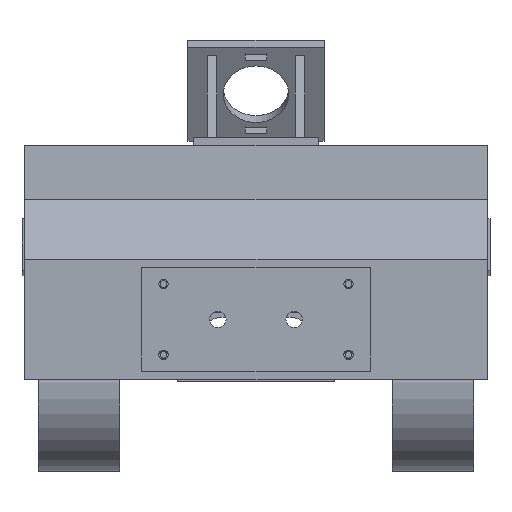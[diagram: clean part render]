
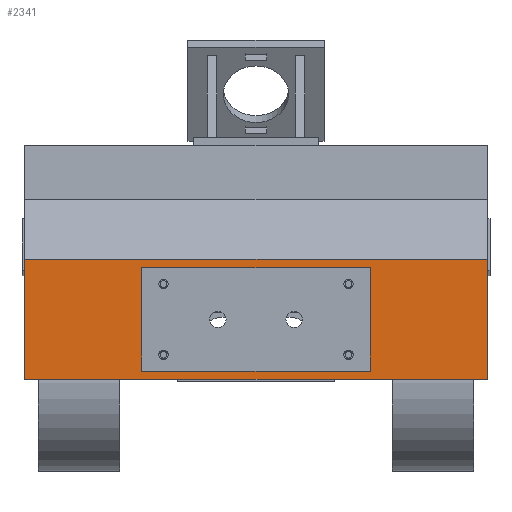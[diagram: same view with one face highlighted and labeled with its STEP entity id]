
A CAD part, left-side view. The second image highlights one B-rep face of the part: STEP entity #2341.
In plain terms, the highlighted planar face has unit normal (-1, 0, 0).
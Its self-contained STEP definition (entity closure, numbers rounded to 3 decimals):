
#84 = VERTEX_POINT('',#85);
#85 = CARTESIAN_POINT('',(-130.,-85.,34.));
#94 = PLANE('',#95);
#95 = AXIS2_PLACEMENT_3D('',#96,#97,#98);
#96 = CARTESIAN_POINT('',(-130.,-85.,34.));
#97 = DIRECTION('',(0.,0.,-1.));
#98 = DIRECTION('',(1.,0.,0.));
#106 = PLANE('',#107);
#107 = AXIS2_PLACEMENT_3D('',#108,#109,#110);
#108 = CARTESIAN_POINT('',(2.199,-85.,72.388));
#109 = DIRECTION('',(-0.,-1.,-0.));
#110 = DIRECTION('',(0.,0.,-1.));
#118 = EDGE_CURVE('',#84,#119,#121,.T.);
#119 = VERTEX_POINT('',#120);
#120 = CARTESIAN_POINT('',(-130.,85.,34.));
#121 = SURFACE_CURVE('',#122,(#126,#133),.PCURVE_S1.);
#122 = LINE('',#123,#124);
#123 = CARTESIAN_POINT('',(-130.,-85.,34.));
#124 = VECTOR('',#125,1.);
#125 = DIRECTION('',(0.,1.,0.));
#126 = PCURVE('',#94,#127);
#127 = DEFINITIONAL_REPRESENTATION('',(#128),#132);
#128 = LINE('',#129,#130);
#129 = CARTESIAN_POINT('',(0.,0.));
#130 = VECTOR('',#131,1.);
#131 = DIRECTION('',(0.,-1.));
#132 = ( GEOMETRIC_REPRESENTATION_CONTEXT(2) 
PARAMETRIC_REPRESENTATION_CONTEXT() REPRESENTATION_CONTEXT('2D SPACE',''
  ) );
#133 = PCURVE('',#134,#139);
#134 = PLANE('',#135);
#135 = AXIS2_PLACEMENT_3D('',#136,#137,#138);
#136 = CARTESIAN_POINT('',(-130.,-85.,78.));
#137 = DIRECTION('',(-1.,0.,0.));
#138 = DIRECTION('',(0.,0.,-1.));
#139 = DEFINITIONAL_REPRESENTATION('',(#140),#144);
#140 = LINE('',#141,#142);
#141 = CARTESIAN_POINT('',(44.,0.));
#142 = VECTOR('',#143,1.);
#143 = DIRECTION('',(0.,-1.));
#144 = ( GEOMETRIC_REPRESENTATION_CONTEXT(2) 
PARAMETRIC_REPRESENTATION_CONTEXT() REPRESENTATION_CONTEXT('2D SPACE',''
  ) );
#162 = PLANE('',#163);
#163 = AXIS2_PLACEMENT_3D('',#164,#165,#166);
#164 = CARTESIAN_POINT('',(2.199,85.,72.388));
#165 = DIRECTION('',(-0.,-1.,-0.));
#166 = DIRECTION('',(0.,0.,-1.));
#308 = VERTEX_POINT('',#309);
#309 = CARTESIAN_POINT('',(-130.,-85.,78.));
#323 = PLANE('',#324);
#324 = AXIS2_PLACEMENT_3D('',#325,#326,#327);
#325 = CARTESIAN_POINT('',(-110.,-85.,100.));
#326 = DIRECTION('',(-0.74,0.,0.673));
#327 = DIRECTION('',(-0.673,0.,-0.74));
#335 = EDGE_CURVE('',#308,#84,#336,.T.);
#336 = SURFACE_CURVE('',#337,(#341,#348),.PCURVE_S1.);
#337 = LINE('',#338,#339);
#338 = CARTESIAN_POINT('',(-130.,-85.,78.));
#339 = VECTOR('',#340,1.);
#340 = DIRECTION('',(0.,0.,-1.));
#341 = PCURVE('',#106,#342);
#342 = DEFINITIONAL_REPRESENTATION('',(#343),#347);
#343 = LINE('',#344,#345);
#344 = CARTESIAN_POINT('',(-5.612,-132.199));
#345 = VECTOR('',#346,1.);
#346 = DIRECTION('',(1.,0.));
#347 = ( GEOMETRIC_REPRESENTATION_CONTEXT(2) 
PARAMETRIC_REPRESENTATION_CONTEXT() REPRESENTATION_CONTEXT('2D SPACE',''
  ) );
#348 = PCURVE('',#134,#349);
#349 = DEFINITIONAL_REPRESENTATION('',(#350),#354);
#350 = LINE('',#351,#352);
#351 = CARTESIAN_POINT('',(0.,-0.));
#352 = VECTOR('',#353,1.);
#353 = DIRECTION('',(1.,0.));
#354 = ( GEOMETRIC_REPRESENTATION_CONTEXT(2) 
PARAMETRIC_REPRESENTATION_CONTEXT() REPRESENTATION_CONTEXT('2D SPACE',''
  ) );
#1213 = PLANE('',#1214);
#1214 = AXIS2_PLACEMENT_3D('',#1215,#1216,#1217);
#1215 = CARTESIAN_POINT('',(-134.,-38.,71.5));
#1216 = DIRECTION('',(0.,0.,1.));
#1217 = DIRECTION('',(1.,0.,-0.));
#1239 = PLANE('',#1240);
#1240 = AXIS2_PLACEMENT_3D('',#1241,#1242,#1243);
#1241 = CARTESIAN_POINT('',(-134.,-38.,40.5));
#1242 = DIRECTION('',(-0.,1.,0.));
#1243 = DIRECTION('',(0.,0.,1.));
#1373 = PLANE('',#1374);
#1374 = AXIS2_PLACEMENT_3D('',#1375,#1376,#1377);
#1375 = CARTESIAN_POINT('',(-134.,-38.,40.5));
#1376 = DIRECTION('',(0.,0.,1.));
#1377 = DIRECTION('',(1.,0.,-0.));
#1558 = PLANE('',#1559);
#1559 = AXIS2_PLACEMENT_3D('',#1560,#1561,#1562);
#1560 = CARTESIAN_POINT('',(-134.,38.,40.5));
#1561 = DIRECTION('',(-0.,1.,0.));
#1562 = DIRECTION('',(0.,0.,1.));
#1974 = VERTEX_POINT('',#1975);
#1975 = CARTESIAN_POINT('',(-130.,85.,78.));
#1996 = EDGE_CURVE('',#1974,#119,#1997,.T.);
#1997 = SURFACE_CURVE('',#1998,(#2002,#2009),.PCURVE_S1.);
#1998 = LINE('',#1999,#2000);
#1999 = CARTESIAN_POINT('',(-130.,85.,78.));
#2000 = VECTOR('',#2001,1.);
#2001 = DIRECTION('',(0.,0.,-1.));
#2002 = PCURVE('',#162,#2003);
#2003 = DEFINITIONAL_REPRESENTATION('',(#2004),#2008);
#2004 = LINE('',#2005,#2006);
#2005 = CARTESIAN_POINT('',(-5.612,-132.199));
#2006 = VECTOR('',#2007,1.);
#2007 = DIRECTION('',(1.,0.));
#2008 = ( GEOMETRIC_REPRESENTATION_CONTEXT(2) 
PARAMETRIC_REPRESENTATION_CONTEXT() REPRESENTATION_CONTEXT('2D SPACE',''
  ) );
#2009 = PCURVE('',#134,#2010);
#2010 = DEFINITIONAL_REPRESENTATION('',(#2011),#2015);
#2011 = LINE('',#2012,#2013);
#2012 = CARTESIAN_POINT('',(0.,-170.));
#2013 = VECTOR('',#2014,1.);
#2014 = DIRECTION('',(1.,0.));
#2015 = ( GEOMETRIC_REPRESENTATION_CONTEXT(2) 
PARAMETRIC_REPRESENTATION_CONTEXT() REPRESENTATION_CONTEXT('2D SPACE',''
  ) );
#2341 = ADVANCED_FACE('',(#2342,#2368),#134,.T.);
#2342 = FACE_BOUND('',#2343,.T.);
#2343 = EDGE_LOOP('',(#2344,#2365,#2366,#2367));
#2344 = ORIENTED_EDGE('',*,*,#2345,.T.);
#2345 = EDGE_CURVE('',#308,#1974,#2346,.T.);
#2346 = SURFACE_CURVE('',#2347,(#2351,#2358),.PCURVE_S1.);
#2347 = LINE('',#2348,#2349);
#2348 = CARTESIAN_POINT('',(-130.,-85.,78.));
#2349 = VECTOR('',#2350,1.);
#2350 = DIRECTION('',(0.,1.,0.));
#2351 = PCURVE('',#134,#2352);
#2352 = DEFINITIONAL_REPRESENTATION('',(#2353),#2357);
#2353 = LINE('',#2354,#2355);
#2354 = CARTESIAN_POINT('',(0.,-0.));
#2355 = VECTOR('',#2356,1.);
#2356 = DIRECTION('',(0.,-1.));
#2357 = ( GEOMETRIC_REPRESENTATION_CONTEXT(2) 
PARAMETRIC_REPRESENTATION_CONTEXT() REPRESENTATION_CONTEXT('2D SPACE',''
  ) );
#2358 = PCURVE('',#323,#2359);
#2359 = DEFINITIONAL_REPRESENTATION('',(#2360),#2364);
#2360 = LINE('',#2361,#2362);
#2361 = CARTESIAN_POINT('',(29.732,0.));
#2362 = VECTOR('',#2363,1.);
#2363 = DIRECTION('',(0.,-1.));
#2364 = ( GEOMETRIC_REPRESENTATION_CONTEXT(2) 
PARAMETRIC_REPRESENTATION_CONTEXT() REPRESENTATION_CONTEXT('2D SPACE',''
  ) );
#2365 = ORIENTED_EDGE('',*,*,#1996,.T.);
#2366 = ORIENTED_EDGE('',*,*,#118,.F.);
#2367 = ORIENTED_EDGE('',*,*,#335,.F.);
#2368 = FACE_BOUND('',#2369,.T.);
#2369 = EDGE_LOOP('',(#2370,#2394,#2416,#2438));
#2370 = ORIENTED_EDGE('',*,*,#2371,.F.);
#2371 = EDGE_CURVE('',#2372,#2374,#2376,.T.);
#2372 = VERTEX_POINT('',#2373);
#2373 = CARTESIAN_POINT('',(-130.,-38.,71.5));
#2374 = VERTEX_POINT('',#2375);
#2375 = CARTESIAN_POINT('',(-130.,38.,71.5));
#2376 = SURFACE_CURVE('',#2377,(#2381,#2388),.PCURVE_S1.);
#2377 = LINE('',#2378,#2379);
#2378 = CARTESIAN_POINT('',(-130.,-61.5,71.5));
#2379 = VECTOR('',#2380,1.);
#2380 = DIRECTION('',(0.,1.,-0.));
#2381 = PCURVE('',#134,#2382);
#2382 = DEFINITIONAL_REPRESENTATION('',(#2383),#2387);
#2383 = LINE('',#2384,#2385);
#2384 = CARTESIAN_POINT('',(6.5,-23.5));
#2385 = VECTOR('',#2386,1.);
#2386 = DIRECTION('',(0.,-1.));
#2387 = ( GEOMETRIC_REPRESENTATION_CONTEXT(2) 
PARAMETRIC_REPRESENTATION_CONTEXT() REPRESENTATION_CONTEXT('2D SPACE',''
  ) );
#2388 = PCURVE('',#1213,#2389);
#2389 = DEFINITIONAL_REPRESENTATION('',(#2390),#2393);
#2390 = B_SPLINE_CURVE_WITH_KNOTS('',1,(#2391,#2392),.UNSPECIFIED.,.F.,
  .F.,(2,2),(23.5,99.5),.PIECEWISE_BEZIER_KNOTS.);
#2391 = CARTESIAN_POINT('',(4.,0.));
#2392 = CARTESIAN_POINT('',(4.,76.));
#2393 = ( GEOMETRIC_REPRESENTATION_CONTEXT(2) 
PARAMETRIC_REPRESENTATION_CONTEXT() REPRESENTATION_CONTEXT('2D SPACE',''
  ) );
#2394 = ORIENTED_EDGE('',*,*,#2395,.T.);
#2395 = EDGE_CURVE('',#2372,#2396,#2398,.T.);
#2396 = VERTEX_POINT('',#2397);
#2397 = CARTESIAN_POINT('',(-130.,-38.,40.5));
#2398 = SURFACE_CURVE('',#2399,(#2403,#2410),.PCURVE_S1.);
#2399 = LINE('',#2400,#2401);
#2400 = CARTESIAN_POINT('',(-130.,-38.,59.25));
#2401 = VECTOR('',#2402,1.);
#2402 = DIRECTION('',(0.,0.,-1.));
#2403 = PCURVE('',#134,#2404);
#2404 = DEFINITIONAL_REPRESENTATION('',(#2405),#2409);
#2405 = LINE('',#2406,#2407);
#2406 = CARTESIAN_POINT('',(18.75,-47.));
#2407 = VECTOR('',#2408,1.);
#2408 = DIRECTION('',(1.,0.));
#2409 = ( GEOMETRIC_REPRESENTATION_CONTEXT(2) 
PARAMETRIC_REPRESENTATION_CONTEXT() REPRESENTATION_CONTEXT('2D SPACE',''
  ) );
#2410 = PCURVE('',#1239,#2411);
#2411 = DEFINITIONAL_REPRESENTATION('',(#2412),#2415);
#2412 = B_SPLINE_CURVE_WITH_KNOTS('',1,(#2413,#2414),.UNSPECIFIED.,.F.,
  .F.,(2,2),(-12.25,18.75),.PIECEWISE_BEZIER_KNOTS.);
#2413 = CARTESIAN_POINT('',(31.,4.));
#2414 = CARTESIAN_POINT('',(0.,4.));
#2415 = ( GEOMETRIC_REPRESENTATION_CONTEXT(2) 
PARAMETRIC_REPRESENTATION_CONTEXT() REPRESENTATION_CONTEXT('2D SPACE',''
  ) );
#2416 = ORIENTED_EDGE('',*,*,#2417,.T.);
#2417 = EDGE_CURVE('',#2396,#2418,#2420,.T.);
#2418 = VERTEX_POINT('',#2419);
#2419 = CARTESIAN_POINT('',(-130.,38.,40.5));
#2420 = SURFACE_CURVE('',#2421,(#2425,#2432),.PCURVE_S1.);
#2421 = LINE('',#2422,#2423);
#2422 = CARTESIAN_POINT('',(-130.,-61.5,40.5));
#2423 = VECTOR('',#2424,1.);
#2424 = DIRECTION('',(0.,1.,-0.));
#2425 = PCURVE('',#134,#2426);
#2426 = DEFINITIONAL_REPRESENTATION('',(#2427),#2431);
#2427 = LINE('',#2428,#2429);
#2428 = CARTESIAN_POINT('',(37.5,-23.5));
#2429 = VECTOR('',#2430,1.);
#2430 = DIRECTION('',(0.,-1.));
#2431 = ( GEOMETRIC_REPRESENTATION_CONTEXT(2) 
PARAMETRIC_REPRESENTATION_CONTEXT() REPRESENTATION_CONTEXT('2D SPACE',''
  ) );
#2432 = PCURVE('',#1373,#2433);
#2433 = DEFINITIONAL_REPRESENTATION('',(#2434),#2437);
#2434 = B_SPLINE_CURVE_WITH_KNOTS('',1,(#2435,#2436),.UNSPECIFIED.,.F.,
  .F.,(2,2),(23.5,99.5),.PIECEWISE_BEZIER_KNOTS.);
#2435 = CARTESIAN_POINT('',(4.,0.));
#2436 = CARTESIAN_POINT('',(4.,76.));
#2437 = ( GEOMETRIC_REPRESENTATION_CONTEXT(2) 
PARAMETRIC_REPRESENTATION_CONTEXT() REPRESENTATION_CONTEXT('2D SPACE',''
  ) );
#2438 = ORIENTED_EDGE('',*,*,#2439,.F.);
#2439 = EDGE_CURVE('',#2374,#2418,#2440,.T.);
#2440 = SURFACE_CURVE('',#2441,(#2445,#2452),.PCURVE_S1.);
#2441 = LINE('',#2442,#2443);
#2442 = CARTESIAN_POINT('',(-130.,38.,59.25));
#2443 = VECTOR('',#2444,1.);
#2444 = DIRECTION('',(0.,0.,-1.));
#2445 = PCURVE('',#134,#2446);
#2446 = DEFINITIONAL_REPRESENTATION('',(#2447),#2451);
#2447 = LINE('',#2448,#2449);
#2448 = CARTESIAN_POINT('',(18.75,-123.));
#2449 = VECTOR('',#2450,1.);
#2450 = DIRECTION('',(1.,0.));
#2451 = ( GEOMETRIC_REPRESENTATION_CONTEXT(2) 
PARAMETRIC_REPRESENTATION_CONTEXT() REPRESENTATION_CONTEXT('2D SPACE',''
  ) );
#2452 = PCURVE('',#1558,#2453);
#2453 = DEFINITIONAL_REPRESENTATION('',(#2454),#2457);
#2454 = B_SPLINE_CURVE_WITH_KNOTS('',1,(#2455,#2456),.UNSPECIFIED.,.F.,
  .F.,(2,2),(-12.25,18.75),.PIECEWISE_BEZIER_KNOTS.);
#2455 = CARTESIAN_POINT('',(31.,4.));
#2456 = CARTESIAN_POINT('',(0.,4.));
#2457 = ( GEOMETRIC_REPRESENTATION_CONTEXT(2) 
PARAMETRIC_REPRESENTATION_CONTEXT() REPRESENTATION_CONTEXT('2D SPACE',''
  ) );
